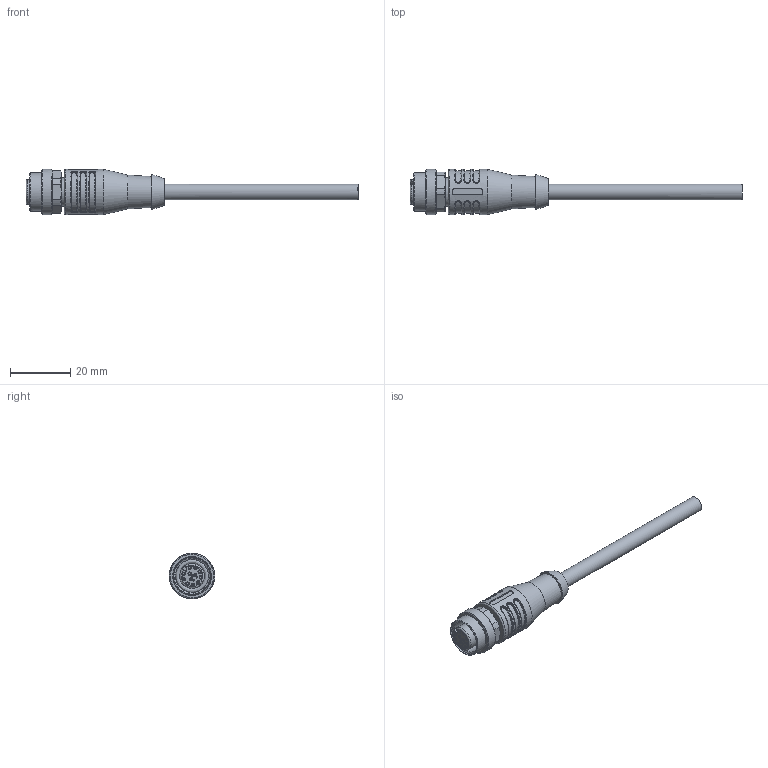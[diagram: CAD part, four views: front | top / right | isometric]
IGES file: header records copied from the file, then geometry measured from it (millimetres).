
Global section: file name: 153-13641_C L12FG-xm-PUR; native system: Autodesk Inventor 2018; preprocessor: unknown; date: 20191106.115213; units: millimetre
Bounding box: 109.9 x 15 x 14.99 mm (x, y, z)
Volume: 7049.5 mm3; surface area: 4012.7 mm2
Topology: 1 solids, 1 shells, 386 faces, 979 edges, 640 vertices
Faces by surface type: bspline 386
